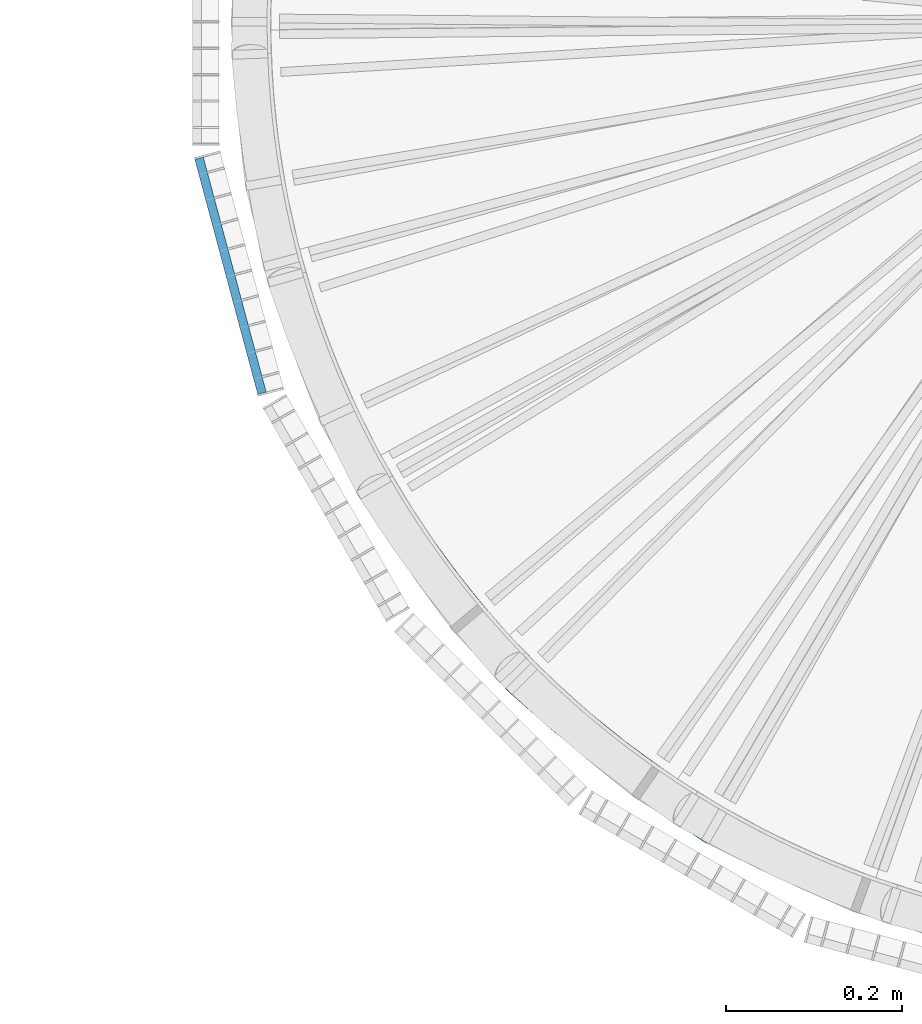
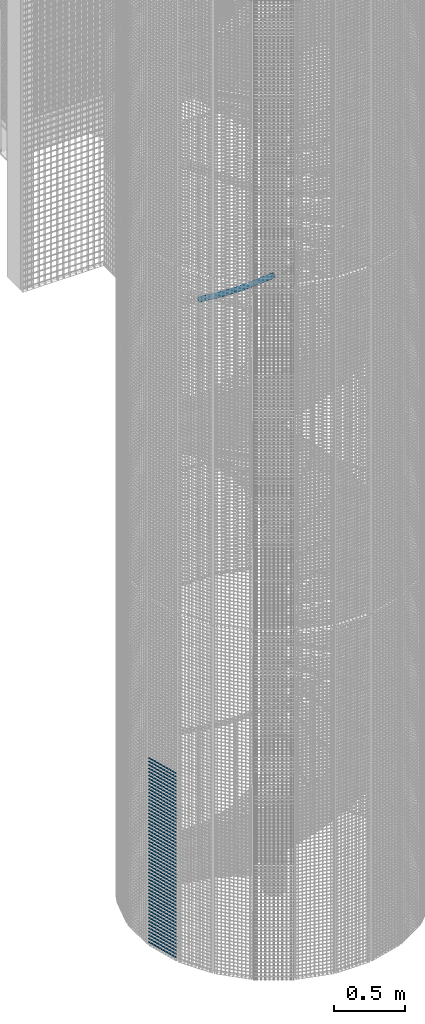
# One storey, part 132 of 1148: 54 beams, 2 members, 3 elements without a shape of their own.
"""IFC2X3 building model written with IfcOpenShell, lengths in millimetres."""

from ifc_helpers import new_model, entity, si_unit, frame, origin_with_axes, origin_2d_with_axis, place, context, subcontext, project, spatial, rectangle, extrude, material, type_object, element, aggregate, save


model = new_model("IFC2X3")

# Units and contexts
model_context = context("Model", 3, precision=1e-05, world=origin_with_axes())
body_context = subcontext(model_context, "Body", "Model", "MODEL_VIEW")
ifc_project = project(units=[si_unit("LENGTHUNIT", "METRE", prefix="MILLI"), si_unit("AREAUNIT", "SQUARE_METRE"), si_unit("VOLUMEUNIT", "CUBIC_METRE"), si_unit("MASSUNIT", "GRAM", prefix="KILO"), si_unit("TIMEUNIT", "SECOND"), si_unit("PLANEANGLEUNIT", "RADIAN"), si_unit("SOLIDANGLEUNIT", "STERADIAN"), si_unit("THERMODYNAMICTEMPERATUREUNIT", "DEGREE_CELSIUS"), si_unit("LUMINOUSINTENSITYUNIT", "LUMEN")], contexts=[model_context])

# Site, building, storey
site_placement = place(None, origin_with_axes())
site = spatial("IfcSite", under=ifc_project, at=site_placement, Name="Undefined", CompositionType="ELEMENT")
building_placement = place(site_placement, origin_with_axes())
building = spatial("IfcBuilding", under=site, at=building_placement, Name="Undefined", CompositionType="ELEMENT")
storey_placement = place(building_placement, origin_with_axes())
storey = spatial("IfcBuildingStorey", under=building, at=storey_placement, Name="Undefined", CompositionType="ELEMENT", Elevation=0.0)

# Assembly, beams
assembly_1_placement = place(storey_placement, origin_with_axes())
assembly_1 = element("IfcElementAssembly", 1, at=assembly_1_placement, inside=storey, Name="BORDURE", AssemblyPlace="NOTDEFINED", PredefinedType="NOTDEFINED")
ifc_material = material(Name="STEEL/S235JR")
beam_type = type_object("IfcBeamType", Name="PL2*10", PredefinedType="NOTDEFINED")
beam_1_placement = place(assembly_1_placement, frame((-1111.25508286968, -154.895926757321, 1620.0), z_axis=(-0.965925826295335, -0.258819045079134, 0.0), x_axis=(0.258819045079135, -0.965925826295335, 0.0)))
beam_1 = element("IfcBeam", 2, at=beam_1_placement, type_object=beam_type, material=ifc_material, Name="ENTRETOISE", context=body_context, shape_type="SweptSolid", body=[
    extrude(rectangle(XDim=2.0, YDim=10.0, at=origin_2d_with_axis()), frame((275.999999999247, 9.09494701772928e-13, 1.53210777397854e-14), z_axis=(-1.0, 0.0, 0.0), x_axis=(0.0, -1.0, 0.0)), (0.0, 0.0, 1.0), 276.0),
])
beam_2_placement = place(assembly_1_placement, frame((-1111.25508286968, -154.895926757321, 1590.0), z_axis=(-0.965925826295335, -0.258819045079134, 0.0), x_axis=(0.258819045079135, -0.965925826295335, 0.0)))
beam_2 = element("IfcBeam", 3, at=beam_2_placement, type_object=beam_type, material=ifc_material, Name="ENTRETOISE", context=body_context, shape_type="SweptSolid", body=[
    extrude(rectangle(XDim=2.0, YDim=10.0, at=origin_2d_with_axis()), frame((275.999999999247, 9.09494701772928e-13, 1.53210777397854e-14), z_axis=(-1.0, 0.0, 0.0), x_axis=(0.0, -1.0, 0.0)), (0.0, 0.0, 1.0), 276.0),
])
beam_3_placement = place(assembly_1_placement, frame((-1111.25508286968, -154.895926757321, 1560.0), z_axis=(-0.965925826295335, -0.258819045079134, 0.0), x_axis=(0.258819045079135, -0.965925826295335, 0.0)))
beam_3 = element("IfcBeam", 4, at=beam_3_placement, type_object=beam_type, material=ifc_material, Name="ENTRETOISE", context=body_context, shape_type="SweptSolid", body=[
    extrude(rectangle(XDim=2.0, YDim=10.0, at=origin_2d_with_axis()), frame((275.999999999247, 9.09494701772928e-13, 1.53210777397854e-14), z_axis=(-1.0, 0.0, 0.0), x_axis=(0.0, -1.0, 0.0)), (0.0, 0.0, 1.0), 276.0),
])
beam_4_placement = place(assembly_1_placement, frame((-1111.25508286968, -154.895926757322, 1530.0), z_axis=(-0.965925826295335, -0.258819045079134, 0.0), x_axis=(0.258819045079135, -0.965925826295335, 0.0)))
beam_4 = element("IfcBeam", 5, at=beam_4_placement, type_object=beam_type, material=ifc_material, Name="ENTRETOISE", context=body_context, shape_type="SweptSolid", body=[
    extrude(rectangle(XDim=2.0, YDim=10.0, at=origin_2d_with_axis()), frame((275.999999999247, 9.09494701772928e-13, 1.53210777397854e-14), z_axis=(-1.0, 0.0, 0.0), x_axis=(0.0, -1.0, 0.0)), (0.0, 0.0, 1.0), 276.0),
])
beam_5_placement = place(assembly_1_placement, frame((-1111.25508286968, -154.895926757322, 1500.0), z_axis=(-0.965925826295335, -0.258819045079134, 0.0), x_axis=(0.258819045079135, -0.965925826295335, 0.0)))
beam_5 = element("IfcBeam", 6, at=beam_5_placement, type_object=beam_type, material=ifc_material, Name="ENTRETOISE", context=body_context, shape_type="SweptSolid", body=[
    extrude(rectangle(XDim=2.0, YDim=10.0, at=origin_2d_with_axis()), frame((275.999999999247, 9.09494701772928e-13, 1.53210777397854e-14), z_axis=(-1.0, 0.0, 0.0), x_axis=(0.0, -1.0, 0.0)), (0.0, 0.0, 1.0), 276.0),
])
beam_6_placement = place(assembly_1_placement, frame((-1111.25508286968, -154.895926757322, 1470.0), z_axis=(-0.965925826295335, -0.258819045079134, 0.0), x_axis=(0.258819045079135, -0.965925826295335, 0.0)))
beam_6 = element("IfcBeam", 7, at=beam_6_placement, type_object=beam_type, material=ifc_material, Name="ENTRETOISE", context=body_context, shape_type="SweptSolid", body=[
    extrude(rectangle(XDim=2.0, YDim=10.0, at=origin_2d_with_axis()), frame((275.999999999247, 9.09494701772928e-13, 1.53210777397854e-14), z_axis=(-1.0, 0.0, 0.0), x_axis=(0.0, -1.0, 0.0)), (0.0, 0.0, 1.0), 276.0),
])
beam_7_placement = place(assembly_1_placement, frame((-1111.25508286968, -154.895926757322, 1440.0), z_axis=(-0.965925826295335, -0.258819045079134, 0.0), x_axis=(0.258819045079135, -0.965925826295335, 0.0)))
beam_7 = element("IfcBeam", 8, at=beam_7_placement, type_object=beam_type, material=ifc_material, Name="ENTRETOISE", context=body_context, shape_type="SweptSolid", body=[
    extrude(rectangle(XDim=2.0, YDim=10.0, at=origin_2d_with_axis()), frame((275.999999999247, 9.09494701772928e-13, 1.53210777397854e-14), z_axis=(-1.0, 0.0, 0.0), x_axis=(0.0, -1.0, 0.0)), (0.0, 0.0, 1.0), 276.0),
])
beam_8_placement = place(assembly_1_placement, frame((-1111.25508286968, -154.895926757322, 1410.0), z_axis=(-0.965925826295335, -0.258819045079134, 0.0), x_axis=(0.258819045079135, -0.965925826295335, 0.0)))
beam_8 = element("IfcBeam", 9, at=beam_8_placement, type_object=beam_type, material=ifc_material, Name="ENTRETOISE", context=body_context, shape_type="SweptSolid", body=[
    extrude(rectangle(XDim=2.0, YDim=10.0, at=origin_2d_with_axis()), frame((275.999999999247, 9.09494701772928e-13, 1.53210777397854e-14), z_axis=(-1.0, 0.0, 0.0), x_axis=(0.0, -1.0, 0.0)), (0.0, 0.0, 1.0), 276.0),
])
beam_9_placement = place(assembly_1_placement, frame((-1111.25508286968, -154.895926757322, 1380.0), z_axis=(-0.965925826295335, -0.258819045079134, 0.0), x_axis=(0.258819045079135, -0.965925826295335, 0.0)))
beam_9 = element("IfcBeam", 10, at=beam_9_placement, type_object=beam_type, material=ifc_material, Name="ENTRETOISE", context=body_context, shape_type="SweptSolid", body=[
    extrude(rectangle(XDim=2.0, YDim=10.0, at=origin_2d_with_axis()), frame((275.999999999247, 9.09494701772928e-13, 1.53210777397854e-14), z_axis=(-1.0, 0.0, 0.0), x_axis=(0.0, -1.0, 0.0)), (0.0, 0.0, 1.0), 276.0),
])
beam_10_placement = place(assembly_1_placement, frame((-1111.25508286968, -154.895926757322, 1350.0), z_axis=(-0.965925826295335, -0.258819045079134, 0.0), x_axis=(0.258819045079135, -0.965925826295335, 0.0)))
beam_10 = element("IfcBeam", 11, at=beam_10_placement, type_object=beam_type, material=ifc_material, Name="ENTRETOISE", context=body_context, shape_type="SweptSolid", body=[
    extrude(rectangle(XDim=2.0, YDim=10.0, at=origin_2d_with_axis()), frame((275.999999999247, 9.09494701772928e-13, 1.53210777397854e-14), z_axis=(-1.0, 0.0, 0.0), x_axis=(0.0, -1.0, 0.0)), (0.0, 0.0, 1.0), 276.0),
])
beam_11_placement = place(assembly_1_placement, frame((-1111.25508286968, -154.895926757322, 1320.0), z_axis=(-0.965925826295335, -0.258819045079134, 0.0), x_axis=(0.258819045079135, -0.965925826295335, 0.0)))
beam_11 = element("IfcBeam", 12, at=beam_11_placement, type_object=beam_type, material=ifc_material, Name="ENTRETOISE", context=body_context, shape_type="SweptSolid", body=[
    extrude(rectangle(XDim=2.0, YDim=10.0, at=origin_2d_with_axis()), frame((275.999999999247, 9.09494701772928e-13, 1.53210777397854e-14), z_axis=(-1.0, 0.0, 0.0), x_axis=(0.0, -1.0, 0.0)), (0.0, 0.0, 1.0), 276.0),
])
beam_12_placement = place(assembly_1_placement, frame((-1111.25508286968, -154.895926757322, 1290.0), z_axis=(-0.965925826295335, -0.258819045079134, 0.0), x_axis=(0.258819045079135, -0.965925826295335, 0.0)))
beam_12 = element("IfcBeam", 13, at=beam_12_placement, type_object=beam_type, material=ifc_material, Name="ENTRETOISE", context=body_context, shape_type="SweptSolid", body=[
    extrude(rectangle(XDim=2.0, YDim=10.0, at=origin_2d_with_axis()), frame((275.999999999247, 9.09494701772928e-13, 1.53210777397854e-14), z_axis=(-1.0, 0.0, 0.0), x_axis=(0.0, -1.0, 0.0)), (0.0, 0.0, 1.0), 276.0),
])
beam_13_placement = place(assembly_1_placement, frame((-1111.25508286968, -154.895926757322, 1260.0), z_axis=(-0.965925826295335, -0.258819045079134, 0.0), x_axis=(0.258819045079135, -0.965925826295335, 0.0)))
beam_13 = element("IfcBeam", 14, at=beam_13_placement, type_object=beam_type, material=ifc_material, Name="ENTRETOISE", context=body_context, shape_type="SweptSolid", body=[
    extrude(rectangle(XDim=2.0, YDim=10.0, at=origin_2d_with_axis()), frame((275.999999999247, 9.09494701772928e-13, 1.53210777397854e-14), z_axis=(-1.0, 0.0, 0.0), x_axis=(0.0, -1.0, 0.0)), (0.0, 0.0, 1.0), 276.0),
])
beam_14_placement = place(assembly_1_placement, frame((-1111.25508286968, -154.895926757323, 1230.0), z_axis=(-0.965925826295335, -0.258819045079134, 0.0), x_axis=(0.258819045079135, -0.965925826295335, 0.0)))
beam_14 = element("IfcBeam", 15, at=beam_14_placement, type_object=beam_type, material=ifc_material, Name="ENTRETOISE", context=body_context, shape_type="SweptSolid", body=[
    extrude(rectangle(XDim=2.0, YDim=10.0, at=origin_2d_with_axis()), frame((275.999999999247, 9.09494701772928e-13, 1.53210777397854e-14), z_axis=(-1.0, 0.0, 0.0), x_axis=(0.0, -1.0, 0.0)), (0.0, 0.0, 1.0), 276.0),
])
beam_15_placement = place(assembly_1_placement, frame((-1111.25508286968, -154.895926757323, 1200.0), z_axis=(-0.965925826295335, -0.258819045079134, 0.0), x_axis=(0.258819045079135, -0.965925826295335, 0.0)))
beam_15 = element("IfcBeam", 16, at=beam_15_placement, type_object=beam_type, material=ifc_material, Name="ENTRETOISE", context=body_context, shape_type="SweptSolid", body=[
    extrude(rectangle(XDim=2.0, YDim=10.0, at=origin_2d_with_axis()), frame((275.999999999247, 9.09494701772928e-13, 1.53210777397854e-14), z_axis=(-1.0, 0.0, 0.0), x_axis=(0.0, -1.0, 0.0)), (0.0, 0.0, 1.0), 276.0),
])
beam_16_placement = place(assembly_1_placement, frame((-1111.25508286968, -154.895926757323, 1170.0), z_axis=(-0.965925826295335, -0.258819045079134, 0.0), x_axis=(0.258819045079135, -0.965925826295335, 0.0)))
beam_16 = element("IfcBeam", 17, at=beam_16_placement, type_object=beam_type, material=ifc_material, Name="ENTRETOISE", context=body_context, shape_type="SweptSolid", body=[
    extrude(rectangle(XDim=2.0, YDim=10.0, at=origin_2d_with_axis()), frame((275.999999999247, 9.09494701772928e-13, 1.53210777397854e-14), z_axis=(-1.0, 0.0, 0.0), x_axis=(0.0, -1.0, 0.0)), (0.0, 0.0, 1.0), 276.0),
])
beam_17_placement = place(assembly_1_placement, frame((-1111.25508286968, -154.895926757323, 1140.0), z_axis=(-0.965925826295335, -0.258819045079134, 0.0), x_axis=(0.258819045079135, -0.965925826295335, 0.0)))
beam_17 = element("IfcBeam", 18, at=beam_17_placement, type_object=beam_type, material=ifc_material, Name="ENTRETOISE", context=body_context, shape_type="SweptSolid", body=[
    extrude(rectangle(XDim=2.0, YDim=10.0, at=origin_2d_with_axis()), frame((275.999999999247, 9.09494701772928e-13, 1.53210777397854e-14), z_axis=(-1.0, 0.0, 0.0), x_axis=(0.0, -1.0, 0.0)), (0.0, 0.0, 1.0), 276.0),
])
beam_18_placement = place(assembly_1_placement, frame((-1111.25508286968, -154.895926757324, 719.999999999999), z_axis=(-0.965925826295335, -0.258819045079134, 0.0), x_axis=(0.258819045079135, -0.965925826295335, 0.0)))
beam_18 = element("IfcBeam", 19, at=beam_18_placement, type_object=beam_type, material=ifc_material, Name="ENTRETOISE", context=body_context, shape_type="SweptSolid", body=[
    extrude(rectangle(XDim=2.0, YDim=10.0, at=origin_2d_with_axis()), frame((275.999999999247, 9.09494701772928e-13, 1.53210777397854e-14), z_axis=(-1.0, 0.0, 0.0), x_axis=(0.0, -1.0, 0.0)), (0.0, 0.0, 1.0), 276.0),
])
beam_19_placement = place(assembly_1_placement, frame((-1111.25508286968, -154.895926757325, 689.999999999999), z_axis=(-0.965925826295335, -0.258819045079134, 0.0), x_axis=(0.258819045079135, -0.965925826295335, 0.0)))
beam_19 = element("IfcBeam", 20, at=beam_19_placement, type_object=beam_type, material=ifc_material, Name="ENTRETOISE", context=body_context, shape_type="SweptSolid", body=[
    extrude(rectangle(XDim=2.0, YDim=10.0, at=origin_2d_with_axis()), frame((275.999999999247, 9.09494701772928e-13, 1.53210777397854e-14), z_axis=(-1.0, 0.0, 0.0), x_axis=(0.0, -1.0, 0.0)), (0.0, 0.0, 1.0), 276.0),
])
beam_20_placement = place(assembly_1_placement, frame((-1111.25508286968, -154.895926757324, 749.999999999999), z_axis=(-0.965925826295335, -0.258819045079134, 0.0), x_axis=(0.258819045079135, -0.965925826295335, 0.0)))
beam_20 = element("IfcBeam", 21, at=beam_20_placement, type_object=beam_type, material=ifc_material, Name="ENTRETOISE", context=body_context, shape_type="SweptSolid", body=[
    extrude(rectangle(XDim=2.0, YDim=10.0, at=origin_2d_with_axis()), frame((275.999999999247, 9.09494701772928e-13, 1.53210777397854e-14), z_axis=(-1.0, 0.0, 0.0), x_axis=(0.0, -1.0, 0.0)), (0.0, 0.0, 1.0), 276.0),
])
beam_21_placement = place(assembly_1_placement, frame((-1111.25508286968, -154.895926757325, 659.999999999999), z_axis=(-0.965925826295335, -0.258819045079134, 0.0), x_axis=(0.258819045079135, -0.965925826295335, 0.0)))
beam_21 = element("IfcBeam", 22, at=beam_21_placement, type_object=beam_type, material=ifc_material, Name="ENTRETOISE", context=body_context, shape_type="SweptSolid", body=[
    extrude(rectangle(XDim=2.0, YDim=10.0, at=origin_2d_with_axis()), frame((275.999999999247, 9.09494701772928e-13, 1.53210777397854e-14), z_axis=(-1.0, 0.0, 0.0), x_axis=(0.0, -1.0, 0.0)), (0.0, 0.0, 1.0), 276.0),
])
beam_22_placement = place(assembly_1_placement, frame((-1111.25508286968, -154.895926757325, 629.999999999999), z_axis=(-0.965925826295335, -0.258819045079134, 0.0), x_axis=(0.258819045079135, -0.965925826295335, 0.0)))
beam_22 = element("IfcBeam", 23, at=beam_22_placement, type_object=beam_type, material=ifc_material, Name="ENTRETOISE", context=body_context, shape_type="SweptSolid", body=[
    extrude(rectangle(XDim=2.0, YDim=10.0, at=origin_2d_with_axis()), frame((275.999999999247, 9.09494701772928e-13, 1.53210777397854e-14), z_axis=(-1.0, 0.0, 0.0), x_axis=(0.0, -1.0, 0.0)), (0.0, 0.0, 1.0), 276.0),
])
beam_23_placement = place(assembly_1_placement, frame((-1111.25508286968, -154.895926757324, 779.999999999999), z_axis=(-0.965925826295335, -0.258819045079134, 0.0), x_axis=(0.258819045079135, -0.965925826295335, 0.0)))
beam_23 = element("IfcBeam", 24, at=beam_23_placement, type_object=beam_type, material=ifc_material, Name="ENTRETOISE", context=body_context, shape_type="SweptSolid", body=[
    extrude(rectangle(XDim=2.0, YDim=10.0, at=origin_2d_with_axis()), frame((275.999999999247, 9.09494701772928e-13, 1.53210777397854e-14), z_axis=(-1.0, 0.0, 0.0), x_axis=(0.0, -1.0, 0.0)), (0.0, 0.0, 1.0), 276.0),
])
beam_24_placement = place(assembly_1_placement, frame((-1111.25508286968, -154.895926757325, 599.999999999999), z_axis=(-0.965925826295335, -0.258819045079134, 0.0), x_axis=(0.258819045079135, -0.965925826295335, 0.0)))
beam_24 = element("IfcBeam", 25, at=beam_24_placement, type_object=beam_type, material=ifc_material, Name="ENTRETOISE", context=body_context, shape_type="SweptSolid", body=[
    extrude(rectangle(XDim=2.0, YDim=10.0, at=origin_2d_with_axis()), frame((275.999999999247, 9.09494701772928e-13, 1.53210777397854e-14), z_axis=(-1.0, 0.0, 0.0), x_axis=(0.0, -1.0, 0.0)), (0.0, 0.0, 1.0), 276.0),
])
beam_25_placement = place(assembly_1_placement, frame((-1111.25508286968, -154.895926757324, 809.999999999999), z_axis=(-0.965925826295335, -0.258819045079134, 0.0), x_axis=(0.258819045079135, -0.965925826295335, 0.0)))
beam_25 = element("IfcBeam", 26, at=beam_25_placement, type_object=beam_type, material=ifc_material, Name="ENTRETOISE", context=body_context, shape_type="SweptSolid", body=[
    extrude(rectangle(XDim=2.0, YDim=10.0, at=origin_2d_with_axis()), frame((275.999999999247, 9.09494701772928e-13, 1.53210777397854e-14), z_axis=(-1.0, 0.0, 0.0), x_axis=(0.0, -1.0, 0.0)), (0.0, 0.0, 1.0), 276.0),
])
beam_26_placement = place(assembly_1_placement, frame((-1111.25508286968, -154.895926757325, 569.999999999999), z_axis=(-0.965925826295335, -0.258819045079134, 0.0), x_axis=(0.258819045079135, -0.965925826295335, 0.0)))
beam_26 = element("IfcBeam", 27, at=beam_26_placement, type_object=beam_type, material=ifc_material, Name="ENTRETOISE", context=body_context, shape_type="SweptSolid", body=[
    extrude(rectangle(XDim=2.0, YDim=10.0, at=origin_2d_with_axis()), frame((275.999999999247, 9.09494701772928e-13, 1.53210777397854e-14), z_axis=(-1.0, 0.0, 0.0), x_axis=(0.0, -1.0, 0.0)), (0.0, 0.0, 1.0), 276.0),
])
beam_27_placement = place(assembly_1_placement, frame((-1111.25508286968, -154.895926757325, 539.999999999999), z_axis=(-0.965925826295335, -0.258819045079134, 0.0), x_axis=(0.258819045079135, -0.965925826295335, 0.0)))
beam_27 = element("IfcBeam", 28, at=beam_27_placement, type_object=beam_type, material=ifc_material, Name="ENTRETOISE", context=body_context, shape_type="SweptSolid", body=[
    extrude(rectangle(XDim=2.0, YDim=10.0, at=origin_2d_with_axis()), frame((275.999999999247, 9.09494701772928e-13, 1.53210777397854e-14), z_axis=(-1.0, 0.0, 0.0), x_axis=(0.0, -1.0, 0.0)), (0.0, 0.0, 1.0), 276.0),
])
beam_28_placement = place(assembly_1_placement, frame((-1111.25508286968, -154.895926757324, 839.999999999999), z_axis=(-0.965925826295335, -0.258819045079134, 0.0), x_axis=(0.258819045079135, -0.965925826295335, 0.0)))
beam_28 = element("IfcBeam", 29, at=beam_28_placement, type_object=beam_type, material=ifc_material, Name="ENTRETOISE", context=body_context, shape_type="SweptSolid", body=[
    extrude(rectangle(XDim=2.0, YDim=10.0, at=origin_2d_with_axis()), frame((275.999999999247, 9.09494701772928e-13, 1.53210777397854e-14), z_axis=(-1.0, 0.0, 0.0), x_axis=(0.0, -1.0, 0.0)), (0.0, 0.0, 1.0), 276.0),
])
beam_29_placement = place(assembly_1_placement, frame((-1111.25508286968, -154.895926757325, 509.999999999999), z_axis=(-0.965925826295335, -0.258819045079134, 0.0), x_axis=(0.258819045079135, -0.965925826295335, 0.0)))
beam_29 = element("IfcBeam", 30, at=beam_29_placement, type_object=beam_type, material=ifc_material, Name="ENTRETOISE", context=body_context, shape_type="SweptSolid", body=[
    extrude(rectangle(XDim=2.0, YDim=10.0, at=origin_2d_with_axis()), frame((275.999999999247, 9.09494701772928e-13, 1.53210777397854e-14), z_axis=(-1.0, 0.0, 0.0), x_axis=(0.0, -1.0, 0.0)), (0.0, 0.0, 1.0), 276.0),
])
beam_30_placement = place(assembly_1_placement, frame((-1111.25508286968, -154.895926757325, 479.999999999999), z_axis=(-0.965925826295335, -0.258819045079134, 0.0), x_axis=(0.258819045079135, -0.965925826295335, 0.0)))
beam_30 = element("IfcBeam", 31, at=beam_30_placement, type_object=beam_type, material=ifc_material, Name="ENTRETOISE", context=body_context, shape_type="SweptSolid", body=[
    extrude(rectangle(XDim=2.0, YDim=10.0, at=origin_2d_with_axis()), frame((275.999999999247, 9.09494701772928e-13, 1.53210777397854e-14), z_axis=(-1.0, 0.0, 0.0), x_axis=(0.0, -1.0, 0.0)), (0.0, 0.0, 1.0), 276.0),
])
beam_31_placement = place(assembly_1_placement, frame((-1111.25508286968, -154.895926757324, 869.999999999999), z_axis=(-0.965925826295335, -0.258819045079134, 0.0), x_axis=(0.258819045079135, -0.965925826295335, 0.0)))
beam_31 = element("IfcBeam", 32, at=beam_31_placement, type_object=beam_type, material=ifc_material, Name="ENTRETOISE", context=body_context, shape_type="SweptSolid", body=[
    extrude(rectangle(XDim=2.0, YDim=10.0, at=origin_2d_with_axis()), frame((275.999999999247, 9.09494701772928e-13, 1.53210777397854e-14), z_axis=(-1.0, 0.0, 0.0), x_axis=(0.0, -1.0, 0.0)), (0.0, 0.0, 1.0), 276.0),
])
beam_32_placement = place(assembly_1_placement, frame((-1111.25508286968, -154.895926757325, 449.999999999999), z_axis=(-0.965925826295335, -0.258819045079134, 0.0), x_axis=(0.258819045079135, -0.965925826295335, 0.0)))
beam_32 = element("IfcBeam", 33, at=beam_32_placement, type_object=beam_type, material=ifc_material, Name="ENTRETOISE", context=body_context, shape_type="SweptSolid", body=[
    extrude(rectangle(XDim=2.0, YDim=10.0, at=origin_2d_with_axis()), frame((275.999999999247, 9.09494701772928e-13, 1.53210777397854e-14), z_axis=(-1.0, 0.0, 0.0), x_axis=(0.0, -1.0, 0.0)), (0.0, 0.0, 1.0), 276.0),
])
beam_33_placement = place(assembly_1_placement, frame((-1111.25508286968, -154.895926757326, 419.999999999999), z_axis=(-0.965925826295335, -0.258819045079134, 0.0), x_axis=(0.258819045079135, -0.965925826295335, 0.0)))
beam_33 = element("IfcBeam", 34, at=beam_33_placement, type_object=beam_type, material=ifc_material, Name="ENTRETOISE", context=body_context, shape_type="SweptSolid", body=[
    extrude(rectangle(XDim=2.0, YDim=10.0, at=origin_2d_with_axis()), frame((275.999999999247, 9.09494701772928e-13, 1.53210777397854e-14), z_axis=(-1.0, 0.0, 0.0), x_axis=(0.0, -1.0, 0.0)), (0.0, 0.0, 1.0), 276.0),
])
beam_34_placement = place(assembly_1_placement, frame((-1111.25508286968, -154.895926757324, 899.999999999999), z_axis=(-0.965925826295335, -0.258819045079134, 0.0), x_axis=(0.258819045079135, -0.965925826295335, 0.0)))
beam_34 = element("IfcBeam", 35, at=beam_34_placement, type_object=beam_type, material=ifc_material, Name="ENTRETOISE", context=body_context, shape_type="SweptSolid", body=[
    extrude(rectangle(XDim=2.0, YDim=10.0, at=origin_2d_with_axis()), frame((275.999999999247, 9.09494701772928e-13, 1.53210777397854e-14), z_axis=(-1.0, 0.0, 0.0), x_axis=(0.0, -1.0, 0.0)), (0.0, 0.0, 1.0), 276.0),
])
beam_35_placement = place(assembly_1_placement, frame((-1111.25508286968, -154.895926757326, 389.999999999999), z_axis=(-0.965925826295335, -0.258819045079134, 0.0), x_axis=(0.258819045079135, -0.965925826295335, 0.0)))
beam_35 = element("IfcBeam", 36, at=beam_35_placement, type_object=beam_type, material=ifc_material, Name="ENTRETOISE", context=body_context, shape_type="SweptSolid", body=[
    extrude(rectangle(XDim=2.0, YDim=10.0, at=origin_2d_with_axis()), frame((275.999999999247, 9.09494701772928e-13, 1.53210777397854e-14), z_axis=(-1.0, 0.0, 0.0), x_axis=(0.0, -1.0, 0.0)), (0.0, 0.0, 1.0), 276.0),
])
beam_36_placement = place(assembly_1_placement, frame((-1111.25508286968, -154.895926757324, 929.999999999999), z_axis=(-0.965925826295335, -0.258819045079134, 0.0), x_axis=(0.258819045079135, -0.965925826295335, 0.0)))
beam_36 = element("IfcBeam", 37, at=beam_36_placement, type_object=beam_type, material=ifc_material, Name="ENTRETOISE", context=body_context, shape_type="SweptSolid", body=[
    extrude(rectangle(XDim=2.0, YDim=10.0, at=origin_2d_with_axis()), frame((275.999999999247, 9.09494701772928e-13, 1.53210777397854e-14), z_axis=(-1.0, 0.0, 0.0), x_axis=(0.0, -1.0, 0.0)), (0.0, 0.0, 1.0), 276.0),
])
beam_37_placement = place(assembly_1_placement, frame((-1111.25508286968, -154.895926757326, 359.999999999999), z_axis=(-0.965925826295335, -0.258819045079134, 0.0), x_axis=(0.258819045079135, -0.965925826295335, 0.0)))
beam_37 = element("IfcBeam", 38, at=beam_37_placement, type_object=beam_type, material=ifc_material, Name="ENTRETOISE", context=body_context, shape_type="SweptSolid", body=[
    extrude(rectangle(XDim=2.0, YDim=10.0, at=origin_2d_with_axis()), frame((275.999999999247, 9.09494701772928e-13, 1.53210777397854e-14), z_axis=(-1.0, 0.0, 0.0), x_axis=(0.0, -1.0, 0.0)), (0.0, 0.0, 1.0), 276.0),
])
beam_38_placement = place(assembly_1_placement, frame((-1111.25508286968, -154.895926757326, 329.999999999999), z_axis=(-0.965925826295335, -0.258819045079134, 0.0), x_axis=(0.258819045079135, -0.965925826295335, 0.0)))
beam_38 = element("IfcBeam", 39, at=beam_38_placement, type_object=beam_type, material=ifc_material, Name="ENTRETOISE", context=body_context, shape_type="SweptSolid", body=[
    extrude(rectangle(XDim=2.0, YDim=10.0, at=origin_2d_with_axis()), frame((275.999999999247, 9.09494701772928e-13, 1.53210777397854e-14), z_axis=(-1.0, 0.0, 0.0), x_axis=(0.0, -1.0, 0.0)), (0.0, 0.0, 1.0), 276.0),
])
beam_39_placement = place(assembly_1_placement, frame((-1111.25508286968, -154.895926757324, 959.999999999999), z_axis=(-0.965925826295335, -0.258819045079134, 0.0), x_axis=(0.258819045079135, -0.965925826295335, 0.0)))
beam_39 = element("IfcBeam", 40, at=beam_39_placement, type_object=beam_type, material=ifc_material, Name="ENTRETOISE", context=body_context, shape_type="SweptSolid", body=[
    extrude(rectangle(XDim=2.0, YDim=10.0, at=origin_2d_with_axis()), frame((275.999999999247, 9.09494701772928e-13, 1.53210777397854e-14), z_axis=(-1.0, 0.0, 0.0), x_axis=(0.0, -1.0, 0.0)), (0.0, 0.0, 1.0), 276.0),
])
beam_40_placement = place(assembly_1_placement, frame((-1111.25508286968, -154.895926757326, 299.999999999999), z_axis=(-0.965925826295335, -0.258819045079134, 0.0), x_axis=(0.258819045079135, -0.965925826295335, 0.0)))
beam_40 = element("IfcBeam", 41, at=beam_40_placement, type_object=beam_type, material=ifc_material, Name="ENTRETOISE", context=body_context, shape_type="SweptSolid", body=[
    extrude(rectangle(XDim=2.0, YDim=10.0, at=origin_2d_with_axis()), frame((275.999999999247, 9.09494701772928e-13, 1.53210777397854e-14), z_axis=(-1.0, 0.0, 0.0), x_axis=(0.0, -1.0, 0.0)), (0.0, 0.0, 1.0), 276.0),
])
beam_41_placement = place(assembly_1_placement, frame((-1111.25508286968, -154.895926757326, 269.999999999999), z_axis=(-0.965925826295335, -0.258819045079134, 0.0), x_axis=(0.258819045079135, -0.965925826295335, 0.0)))
beam_41 = element("IfcBeam", 42, at=beam_41_placement, type_object=beam_type, material=ifc_material, Name="ENTRETOISE", context=body_context, shape_type="SweptSolid", body=[
    extrude(rectangle(XDim=2.0, YDim=10.0, at=origin_2d_with_axis()), frame((275.999999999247, 9.09494701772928e-13, 1.53210777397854e-14), z_axis=(-1.0, 0.0, 0.0), x_axis=(0.0, -1.0, 0.0)), (0.0, 0.0, 1.0), 276.0),
])
beam_42_placement = place(assembly_1_placement, frame((-1111.25508286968, -154.895926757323, 989.999999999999), z_axis=(-0.965925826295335, -0.258819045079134, 0.0), x_axis=(0.258819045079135, -0.965925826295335, 0.0)))
beam_42 = element("IfcBeam", 43, at=beam_42_placement, type_object=beam_type, material=ifc_material, Name="ENTRETOISE", context=body_context, shape_type="SweptSolid", body=[
    extrude(rectangle(XDim=2.0, YDim=10.0, at=origin_2d_with_axis()), frame((275.999999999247, 9.09494701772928e-13, 1.53210777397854e-14), z_axis=(-1.0, 0.0, 0.0), x_axis=(0.0, -1.0, 0.0)), (0.0, 0.0, 1.0), 276.0),
])
beam_43_placement = place(assembly_1_placement, frame((-1111.25508286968, -154.895926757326, 239.999999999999), z_axis=(-0.965925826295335, -0.258819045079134, 0.0), x_axis=(0.258819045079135, -0.965925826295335, 0.0)))
beam_43 = element("IfcBeam", 44, at=beam_43_placement, type_object=beam_type, material=ifc_material, Name="ENTRETOISE", context=body_context, shape_type="SweptSolid", body=[
    extrude(rectangle(XDim=2.0, YDim=10.0, at=origin_2d_with_axis()), frame((275.999999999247, 9.09494701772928e-13, 1.53210777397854e-14), z_axis=(-1.0, 0.0, 0.0), x_axis=(0.0, -1.0, 0.0)), (0.0, 0.0, 1.0), 276.0),
])
beam_44_placement = place(assembly_1_placement, frame((-1111.25508286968, -154.895926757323, 1020.0), z_axis=(-0.965925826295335, -0.258819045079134, 0.0), x_axis=(0.258819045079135, -0.965925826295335, 0.0)))
beam_44 = element("IfcBeam", 45, at=beam_44_placement, type_object=beam_type, material=ifc_material, Name="ENTRETOISE", context=body_context, shape_type="SweptSolid", body=[
    extrude(rectangle(XDim=2.0, YDim=10.0, at=origin_2d_with_axis()), frame((275.999999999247, 9.09494701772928e-13, 1.53210777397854e-14), z_axis=(-1.0, 0.0, 0.0), x_axis=(0.0, -1.0, 0.0)), (0.0, 0.0, 1.0), 276.0),
])
beam_45_placement = place(assembly_1_placement, frame((-1111.25508286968, -154.895926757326, 209.999999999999), z_axis=(-0.965925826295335, -0.258819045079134, 0.0), x_axis=(0.258819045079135, -0.965925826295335, 0.0)))
beam_45 = element("IfcBeam", 46, at=beam_45_placement, type_object=beam_type, material=ifc_material, Name="ENTRETOISE", context=body_context, shape_type="SweptSolid", body=[
    extrude(rectangle(XDim=2.0, YDim=10.0, at=origin_2d_with_axis()), frame((275.999999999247, 9.09494701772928e-13, 1.53210777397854e-14), z_axis=(-1.0, 0.0, 0.0), x_axis=(0.0, -1.0, 0.0)), (0.0, 0.0, 1.0), 276.0),
])
beam_46_placement = place(assembly_1_placement, frame((-1111.25508286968, -154.895926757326, 179.999999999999), z_axis=(-0.965925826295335, -0.258819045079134, 0.0), x_axis=(0.258819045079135, -0.965925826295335, 0.0)))
beam_46 = element("IfcBeam", 47, at=beam_46_placement, type_object=beam_type, material=ifc_material, Name="ENTRETOISE", context=body_context, shape_type="SweptSolid", body=[
    extrude(rectangle(XDim=2.0, YDim=10.0, at=origin_2d_with_axis()), frame((275.999999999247, 9.09494701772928e-13, 1.53210777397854e-14), z_axis=(-1.0, 0.0, 0.0), x_axis=(0.0, -1.0, 0.0)), (0.0, 0.0, 1.0), 276.0),
])
beam_47_placement = place(assembly_1_placement, frame((-1111.25508286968, -154.895926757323, 1050.0), z_axis=(-0.965925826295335, -0.258819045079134, 0.0), x_axis=(0.258819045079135, -0.965925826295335, 0.0)))
beam_47 = element("IfcBeam", 48, at=beam_47_placement, type_object=beam_type, material=ifc_material, Name="ENTRETOISE", context=body_context, shape_type="SweptSolid", body=[
    extrude(rectangle(XDim=2.0, YDim=10.0, at=origin_2d_with_axis()), frame((275.999999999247, 9.09494701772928e-13, 1.53210777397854e-14), z_axis=(-1.0, 0.0, 0.0), x_axis=(0.0, -1.0, 0.0)), (0.0, 0.0, 1.0), 276.0),
])
beam_48_placement = place(assembly_1_placement, frame((-1111.25508286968, -154.895926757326, 149.999999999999), z_axis=(-0.965925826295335, -0.258819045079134, 0.0), x_axis=(0.258819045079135, -0.965925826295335, 0.0)))
beam_48 = element("IfcBeam", 49, at=beam_48_placement, type_object=beam_type, material=ifc_material, Name="ENTRETOISE", context=body_context, shape_type="SweptSolid", body=[
    extrude(rectangle(XDim=2.0, YDim=10.0, at=origin_2d_with_axis()), frame((275.999999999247, 9.09494701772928e-13, 1.53210777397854e-14), z_axis=(-1.0, 0.0, 0.0), x_axis=(0.0, -1.0, 0.0)), (0.0, 0.0, 1.0), 276.0),
])
beam_49_placement = place(assembly_1_placement, frame((-1111.25508286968, -154.895926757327, 119.999999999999), z_axis=(-0.965925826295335, -0.258819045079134, 0.0), x_axis=(0.258819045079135, -0.965925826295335, 0.0)))
beam_49 = element("IfcBeam", 50, at=beam_49_placement, type_object=beam_type, material=ifc_material, Name="ENTRETOISE", context=body_context, shape_type="SweptSolid", body=[
    extrude(rectangle(XDim=2.0, YDim=10.0, at=origin_2d_with_axis()), frame((275.999999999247, 9.09494701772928e-13, 1.53210777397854e-14), z_axis=(-1.0, 0.0, 0.0), x_axis=(0.0, -1.0, 0.0)), (0.0, 0.0, 1.0), 276.0),
])
beam_50_placement = place(assembly_1_placement, frame((-1111.25508286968, -154.895926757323, 1080.0), z_axis=(-0.965925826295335, -0.258819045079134, 0.0), x_axis=(0.258819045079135, -0.965925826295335, 0.0)))
beam_50 = element("IfcBeam", 51, at=beam_50_placement, type_object=beam_type, material=ifc_material, Name="ENTRETOISE", context=body_context, shape_type="SweptSolid", body=[
    extrude(rectangle(XDim=2.0, YDim=10.0, at=origin_2d_with_axis()), frame((275.999999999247, 9.09494701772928e-13, 1.53210777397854e-14), z_axis=(-1.0, 0.0, 0.0), x_axis=(0.0, -1.0, 0.0)), (0.0, 0.0, 1.0), 276.0),
])
beam_51_placement = place(assembly_1_placement, frame((-1111.25508286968, -154.895926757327, 89.9999999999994), z_axis=(-0.965925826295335, -0.258819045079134, 0.0), x_axis=(0.258819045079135, -0.965925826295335, 0.0)))
beam_51 = element("IfcBeam", 52, at=beam_51_placement, type_object=beam_type, material=ifc_material, Name="ENTRETOISE", context=body_context, shape_type="SweptSolid", body=[
    extrude(rectangle(XDim=2.0, YDim=10.0, at=origin_2d_with_axis()), frame((275.999999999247, 9.09494701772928e-13, 1.53210777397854e-14), z_axis=(-1.0, 0.0, 0.0), x_axis=(0.0, -1.0, 0.0)), (0.0, 0.0, 1.0), 276.0),
])
beam_52_placement = place(assembly_1_placement, frame((-1111.25508286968, -154.895926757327, 59.9999999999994), z_axis=(-0.965925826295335, -0.258819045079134, 0.0), x_axis=(0.258819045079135, -0.965925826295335, 0.0)))
beam_52 = element("IfcBeam", 53, at=beam_52_placement, type_object=beam_type, material=ifc_material, Name="ENTRETOISE", context=body_context, shape_type="SweptSolid", body=[
    extrude(rectangle(XDim=2.0, YDim=10.0, at=origin_2d_with_axis()), frame((275.999999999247, 9.09494701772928e-13, 1.53210777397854e-14), z_axis=(-1.0, 0.0, 0.0), x_axis=(0.0, -1.0, 0.0)), (0.0, 0.0, 1.0), 276.0),
])
beam_53_placement = place(assembly_1_placement, frame((-1111.25508286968, -154.895926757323, 1110.0), z_axis=(-0.965925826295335, -0.258819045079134, 0.0), x_axis=(0.258819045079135, -0.965925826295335, 0.0)))
beam_53 = element("IfcBeam", 54, at=beam_53_placement, type_object=beam_type, material=ifc_material, Name="ENTRETOISE", context=body_context, shape_type="SweptSolid", body=[
    extrude(rectangle(XDim=2.0, YDim=10.0, at=origin_2d_with_axis()), frame((275.999999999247, 9.09494701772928e-13, 1.53210777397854e-14), z_axis=(-1.0, 0.0, 0.0), x_axis=(0.0, -1.0, 0.0)), (0.0, 0.0, 1.0), 276.0),
])
beam_54_placement = place(assembly_1_placement, frame((-1111.25508286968, -154.895926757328, 29.9999999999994), z_axis=(-0.965925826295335, -0.258819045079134, 0.0), x_axis=(0.258819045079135, -0.965925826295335, 0.0)))
beam_54 = element("IfcBeam", 55, at=beam_54_placement, type_object=beam_type, material=ifc_material, Name="ENTRETOISE", context=body_context, shape_type="SweptSolid", body=[
    extrude(rectangle(XDim=2.0, YDim=10.0, at=origin_2d_with_axis()), frame((275.999999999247, 9.09494701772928e-13, 1.53210777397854e-14), z_axis=(-1.0, 0.0, 0.0), x_axis=(0.0, -1.0, 0.0)), (0.0, 0.0, 1.0), 276.0),
])
aggregate(assembly_1, [beam_1, beam_2, beam_3, beam_4, beam_5, beam_6, beam_7, beam_8, beam_9, beam_10, beam_11, beam_12, beam_13, beam_14, beam_15, beam_16, beam_17, beam_18, beam_19, beam_20, beam_21, beam_22, beam_23, beam_24, beam_25, beam_26, beam_27, beam_28, beam_29, beam_30, beam_31, beam_32, beam_33, beam_34, beam_35, beam_36, beam_37, beam_38, beam_39, beam_40, beam_41, beam_42, beam_43, beam_44, beam_45, beam_46, beam_47, beam_48, beam_49, beam_50, beam_51, beam_52, beam_53, beam_54])

# Assembly, member
assembly_2_placement = place(storey_placement, origin_with_axes())
assembly_2 = element("IfcElementAssembly", 56, at=assembly_2_placement, inside=storey, Name="MONTANT", AssemblyPlace="NOTDEFINED", PredefinedType="NOTDEFINED")
member_type = type_object("IfcMemberType", Name="TUBE-42.4*3.2", PredefinedType="NOTDEFINED")
member_1_placement = place(assembly_2_placement, frame((-745.2905473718, -745.290547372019, 5890.12000000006), z_axis=(-0.608761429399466, -0.793353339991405, 1.80915776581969e-10), x_axis=(0.691737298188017, -0.530788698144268, 0.489655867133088)))
member_1 = element("IfcMember", 57, at=member_1_placement, type_object=member_type, material=ifc_material, Name="MAIN_COURANTE", context=body_context, shape_type="SweptSolid", body=[
    entity("IfcRevolvedAreaSolid", entity("IfcCircleHollowProfileDef", "AREA", None, entity("IfcAxis2Placement2D", entity("IfcCartesianPoint", [0.0, 0.0]), entity("IfcDirection", [1.0, 0.0])), 21.200000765, 3.200000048), entity("IfcAxis2Placement3D", entity("IfcCartesianPoint", [315.568566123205, -9.09494701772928e-13, -1.31255851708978e-15]), entity("IfcDirection", [-0.997194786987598, -4.44488503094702e-18, 0.0748502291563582]), entity("IfcDirection", [0.0, -1.0, 0.0])), entity("IfcAxis1Placement", entity("IfcCartesianPoint", [0.0, -2108.0, 0.0]), entity("IfcDirection", [1.0, 0.0, 0.0])), 0.149840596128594),
])
aggregate(assembly_2, [member_1])

assembly_3_placement = place(storey_placement, origin_with_axes())
assembly_3 = element("IfcElementAssembly", 58, at=assembly_3_placement, inside=storey, Name="MONTANT", AssemblyPlace="NOTDEFINED", PredefinedType="NOTDEFINED")
member_2_placement = place(assembly_3_placement, frame((-912.790775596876, -527.000000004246, 5735.59999999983), z_axis=(-0.793353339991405, -0.608761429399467, -1.80915776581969e-10), x_axis=(0.530788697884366, -0.691737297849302, 0.489655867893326)))
member_2 = element("IfcMember", 59, at=member_2_placement, type_object=member_type, material=ifc_material, Name="MAIN_COURANTE", context=body_context, shape_type="SweptSolid", body=[
    entity("IfcRevolvedAreaSolid", entity("IfcCircleHollowProfileDef", "AREA", None, entity("IfcAxis2Placement2D", entity("IfcCartesianPoint", [0.0, 0.0]), entity("IfcDirection", [1.0, 0.0])), 21.200000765, 3.200000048), entity("IfcAxis2Placement3D", entity("IfcCartesianPoint", [315.568566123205, -9.09494701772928e-13, -1.31255851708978e-15]), entity("IfcDirection", [-0.997194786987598, -4.44488503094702e-18, 0.0748502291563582]), entity("IfcDirection", [0.0, -1.0, 0.0])), entity("IfcAxis1Placement", entity("IfcCartesianPoint", [0.0, -2108.0, 0.0]), entity("IfcDirection", [1.0, 0.0, 0.0])), 0.149840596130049),
])
aggregate(assembly_3, [member_2])

save(model, "model.ifc")
